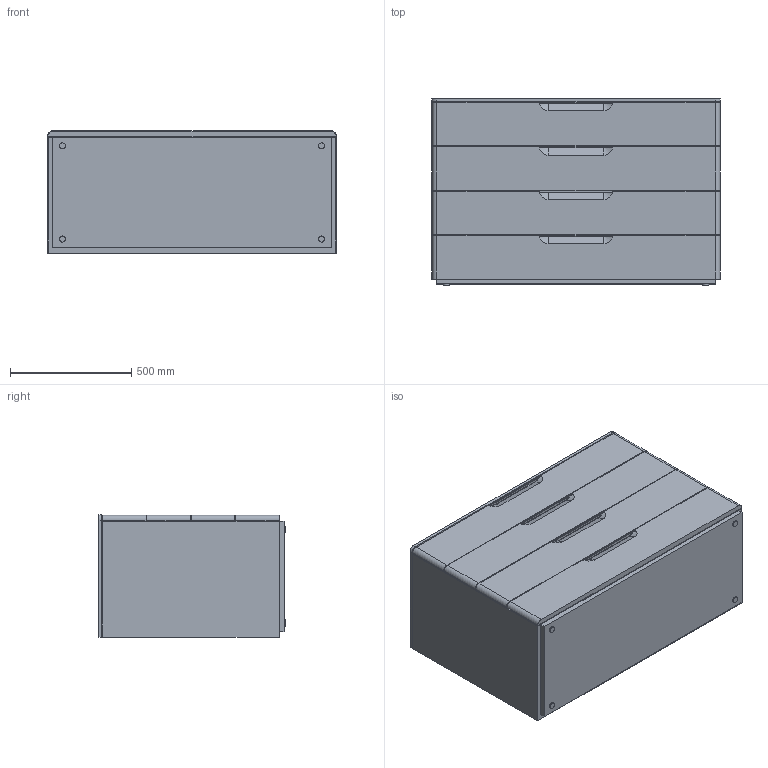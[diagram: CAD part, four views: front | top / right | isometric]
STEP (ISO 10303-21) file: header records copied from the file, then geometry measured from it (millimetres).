
FILE_DESCRIPTION (( 'STEP AP203' ), '1' );
FILE_NAME ('7070_Comò 4 cassetti con top legno.STEP', '2022-08-31T07:43:21', ( '' ), ( '' ), 'SwSTEP 2.0', 'SolidWorks 2021', '' );
FILE_SCHEMA (( 'CONFIG_CONTROL_DESIGN' ));
Length unit declared in the file: millimetre
Products named in the file (6): Top legno; 7070_Comò 4 cassetti con top legno; Comò 4 cassetti; UT164 - MANIGLIA - Step 03; FRONTALE+MANIGLIA L.1189; FRONTALE L.1189 H.180
Assembly tree (8 placements, depth 3):
  7070_Comò 4 cassetti con top legno
    Comò 4 cassetti
    FRONTALE+MANIGLIA L.1189  x4
      FRONTALE L.1189 H.180
      UT164 - MANIGLIA - Step 03
    Top legno
Bounding box: 1191 x 769.5 x 504 mm (x, y, z)
Volume: 451556250.5 mm3; surface area: 8978490.1 mm2
Topology: 14 solids, 14 shells, 436 faces, 1110 edges, 732 vertices
Faces by surface type: plane 198, bspline 96, cylinder 94, cone 48
Entity records: 7212 total; most frequent: CARTESIAN_POINT 3403, ORIENTED_EDGE 672, DIRECTION 600, EDGE_CURVE 336, VERTEX_POINT 222, AXIS2_PLACEMENT_3D 213, VECTOR 174, LINE 174
